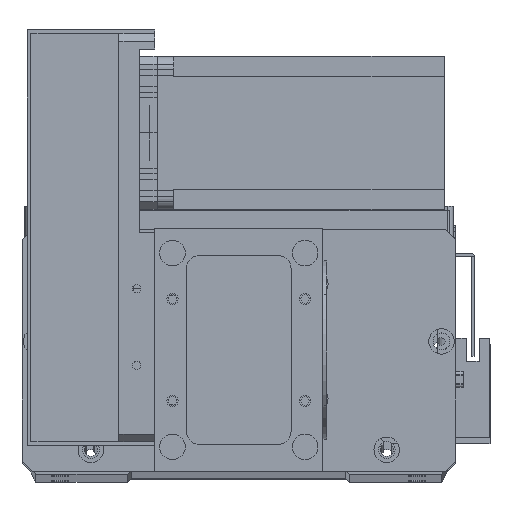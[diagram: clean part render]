
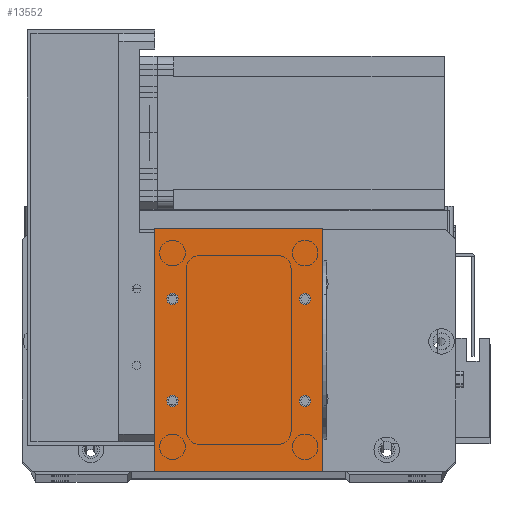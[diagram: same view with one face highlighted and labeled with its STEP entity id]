
A CAD part, top view. The second image highlights one B-rep face of the part: STEP entity #13552.
In plain terms, the highlighted planar face has unit normal (0, 0, 1).
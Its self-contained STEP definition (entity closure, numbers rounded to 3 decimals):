
#53 = DIRECTION ( 'NONE',  ( 1., 0., 0. ) ) ;
#170 = FACE_BOUND ( 'NONE', #5069, .T. ) ;
#246 = CARTESIAN_POINT ( 'NONE',  ( 0., 0., 2. ) ) ;
#457 = AXIS2_PLACEMENT_3D ( 'NONE', #25941, #10708, #28516 ) ;
#862 = ORIENTED_EDGE ( 'NONE', *, *, #5240, .F. ) ;
#1727 = AXIS2_PLACEMENT_3D ( 'NONE', #5889, #23608, #8422 ) ;
#1731 = EDGE_CURVE ( 'NONE', #11243, #31616, #24726, .T. ) ;
#1826 = DIRECTION ( 'NONE',  ( 1., 0., 0. ) ) ;
#2227 = CARTESIAN_POINT ( 'NONE',  ( 9.25, 27.5, 2. ) ) ;
#2505 = VERTEX_POINT ( 'NONE', #25906 ) ;
#2884 = CARTESIAN_POINT ( 'NONE',  ( 0., 95., 2. ) ) ;
#3035 = ORIENTED_EDGE ( 'NONE', *, *, #31755, .T. ) ;
#3715 = CIRCLE ( 'NONE', #4622, 2.25 ) ;
#4555 = DIRECTION ( 'NONE',  ( 0., 0., 1. ) ) ;
#4622 = AXIS2_PLACEMENT_3D ( 'NONE', #19721, #4555, #22293 ) ;
#4671 = CIRCLE ( 'NONE', #25091, 2.25 ) ;
#4686 = VERTEX_POINT ( 'NONE', #2884 ) ;
#4816 = EDGE_CURVE ( 'NONE', #13990, #27916, #18143, .T. ) ;
#4982 = DIRECTION ( 'NONE',  ( 0., 0., 1. ) ) ;
#5069 = EDGE_LOOP ( 'NONE', ( #19073, #25594 ) ) ;
#5163 = VERTEX_POINT ( 'NONE', #9734 ) ;
#5240 = EDGE_CURVE ( 'NONE', #2505, #10138, #19060, .T. ) ;
#5391 = EDGE_CURVE ( 'NONE', #20242, #13130, #7575, .T. ) ;
#5889 = CARTESIAN_POINT ( 'NONE',  ( 59., 67.5, 2. ) ) ;
#6149 = FACE_BOUND ( 'NONE', #7068, .T. ) ;
#6351 = AXIS2_PLACEMENT_3D ( 'NONE', #9896, #27683, #12406 ) ;
#6525 = VERTEX_POINT ( 'NONE', #2227 ) ;
#6750 = LINE ( 'NONE', #246, #19414 ) ;
#6939 = FACE_OUTER_BOUND ( 'NONE', #25197, .T. ) ;
#7068 = EDGE_LOOP ( 'NONE', ( #9404, #27607 ) ) ;
#7426 = AXIS2_PLACEMENT_3D ( 'NONE', #30537, #15216, #53 ) ;
#7575 = CIRCLE ( 'NONE', #457, 2.25 ) ;
#7764 = LINE ( 'NONE', #19694, #13658 ) ;
#7934 = ORIENTED_EDGE ( 'NONE', *, *, #5391, .F. ) ;
#8366 = CIRCLE ( 'NONE', #7426, 2.25 ) ;
#8422 = DIRECTION ( 'NONE',  ( 1., 0., 0. ) ) ;
#8434 = EDGE_CURVE ( 'NONE', #10138, #2505, #18481, .T. ) ;
#9404 = ORIENTED_EDGE ( 'NONE', *, *, #28852, .F. ) ;
#9734 = CARTESIAN_POINT ( 'NONE',  ( 66., 95., 2. ) ) ;
#9896 = CARTESIAN_POINT ( 'NONE',  ( 59., 27.5, 2. ) ) ;
#10138 = VERTEX_POINT ( 'NONE', #10713 ) ;
#10708 = DIRECTION ( 'NONE',  ( 0., 0., 1. ) ) ;
#10713 = CARTESIAN_POINT ( 'NONE',  ( 4.75, 67.5, 2. ) ) ;
#10739 = ORIENTED_EDGE ( 'NONE', *, *, #27124, .T. ) ;
#11243 = VERTEX_POINT ( 'NONE', #19565 ) ;
#11264 = CARTESIAN_POINT ( 'NONE',  ( 66., 0., 2. ) ) ;
#11785 = PLANE ( 'NONE',  #18829 ) ;
#12406 = DIRECTION ( 'NONE',  ( 1., 0., 0. ) ) ;
#12840 = FACE_BOUND ( 'NONE', #24941, .T. ) ;
#13005 = EDGE_CURVE ( 'NONE', #5163, #4686, #7764, .T. ) ;
#13130 = VERTEX_POINT ( 'NONE', #22681 ) ;
#13433 = CARTESIAN_POINT ( 'NONE',  ( 7., 67.5, 2. ) ) ;
#13552 = ADVANCED_FACE ( 'NONE', ( #12840, #170, #26410, #6149, #6939 ), #11785, .F. ) ;
#13658 = VECTOR ( 'NONE', #32446, 1000. ) ;
#13675 = EDGE_CURVE ( 'NONE', #13130, #20242, #22398, .T. ) ;
#13990 = VERTEX_POINT ( 'NONE', #19983 ) ;
#14301 = DIRECTION ( 'NONE',  ( -1., 0., 0. ) ) ;
#14957 = VERTEX_POINT ( 'NONE', #26625 ) ;
#15216 = DIRECTION ( 'NONE',  ( 0., 0., 1. ) ) ;
#15472 = CARTESIAN_POINT ( 'NONE',  ( 61.25, 27.5, 2. ) ) ;
#15988 = DIRECTION ( 'NONE',  ( 1., 0., 0. ) ) ;
#16359 = AXIS2_PLACEMENT_3D ( 'NONE', #20145, #4982, #22694 ) ;
#16694 = DIRECTION ( 'NONE',  ( 0., 1., 0. ) ) ;
#16796 = CARTESIAN_POINT ( 'NONE',  ( 66., 0., 2. ) ) ;
#16992 = DIRECTION ( 'NONE',  ( 0., 0., 1. ) ) ;
#17149 = VECTOR ( 'NONE', #32763, 1000. ) ;
#17569 = LINE ( 'NONE', #16796, #30378 ) ;
#17986 = EDGE_LOOP ( 'NONE', ( #7934, #30005 ) ) ;
#18143 = CIRCLE ( 'NONE', #1727, 2.25 ) ;
#18481 = CIRCLE ( 'NONE', #20704, 2.25 ) ;
#18569 = ORIENTED_EDGE ( 'NONE', *, *, #8434, .F. ) ;
#18829 = AXIS2_PLACEMENT_3D ( 'NONE', #32084, #29599, #14301 ) ;
#19060 = CIRCLE ( 'NONE', #16359, 2.25 ) ;
#19073 = ORIENTED_EDGE ( 'NONE', *, *, #19997, .F. ) ;
#19414 = VECTOR ( 'NONE', #20535, 1000. ) ;
#19565 = CARTESIAN_POINT ( 'NONE',  ( 0., 0., 2. ) ) ;
#19694 = CARTESIAN_POINT ( 'NONE',  ( 0., 95., 2. ) ) ;
#19721 = CARTESIAN_POINT ( 'NONE',  ( 59., 67.5, 2. ) ) ;
#19983 = CARTESIAN_POINT ( 'NONE',  ( 56.75, 67.5, 2. ) ) ;
#19997 = EDGE_CURVE ( 'NONE', #27916, #13990, #3715, .T. ) ;
#20145 = CARTESIAN_POINT ( 'NONE',  ( 7., 67.5, 2. ) ) ;
#20242 = VERTEX_POINT ( 'NONE', #15472 ) ;
#20535 = DIRECTION ( 'NONE',  ( 0., -1., 0. ) ) ;
#20573 = ORIENTED_EDGE ( 'NONE', *, *, #13005, .T. ) ;
#20704 = AXIS2_PLACEMENT_3D ( 'NONE', #13433, #31317, #15988 ) ;
#22293 = DIRECTION ( 'NONE',  ( 1., 0., 0. ) ) ;
#22398 = CIRCLE ( 'NONE', #6351, 2.25 ) ;
#22568 = EDGE_CURVE ( 'NONE', #14957, #6525, #8366, .T. ) ;
#22681 = CARTESIAN_POINT ( 'NONE',  ( 56.75, 27.5, 2. ) ) ;
#22694 = DIRECTION ( 'NONE',  ( 1., 0., 0. ) ) ;
#23608 = DIRECTION ( 'NONE',  ( 0., 0., 1. ) ) ;
#24726 = LINE ( 'NONE', #27617, #17149 ) ;
#24941 = EDGE_LOOP ( 'NONE', ( #862, #18569 ) ) ;
#25091 = AXIS2_PLACEMENT_3D ( 'NONE', #32319, #16992, #1826 ) ;
#25197 = EDGE_LOOP ( 'NONE', ( #10739, #26535, #3035, #20573 ) ) ;
#25594 = ORIENTED_EDGE ( 'NONE', *, *, #4816, .F. ) ;
#25906 = CARTESIAN_POINT ( 'NONE',  ( 9.25, 67.5, 2. ) ) ;
#25941 = CARTESIAN_POINT ( 'NONE',  ( 59., 27.5, 2. ) ) ;
#26410 = FACE_BOUND ( 'NONE', #17986, .T. ) ;
#26535 = ORIENTED_EDGE ( 'NONE', *, *, #1731, .T. ) ;
#26625 = CARTESIAN_POINT ( 'NONE',  ( 4.75, 27.5, 2. ) ) ;
#27124 = EDGE_CURVE ( 'NONE', #4686, #11243, #6750, .T. ) ;
#27607 = ORIENTED_EDGE ( 'NONE', *, *, #22568, .F. ) ;
#27617 = CARTESIAN_POINT ( 'NONE',  ( 0., 0., 2. ) ) ;
#27683 = DIRECTION ( 'NONE',  ( 0., 0., 1. ) ) ;
#27916 = VERTEX_POINT ( 'NONE', #30359 ) ;
#28516 = DIRECTION ( 'NONE',  ( 1., 0., 0. ) ) ;
#28852 = EDGE_CURVE ( 'NONE', #6525, #14957, #4671, .T. ) ;
#29599 = DIRECTION ( 'NONE',  ( 0., 0., -1. ) ) ;
#30005 = ORIENTED_EDGE ( 'NONE', *, *, #13675, .F. ) ;
#30359 = CARTESIAN_POINT ( 'NONE',  ( 61.25, 67.5, 2. ) ) ;
#30378 = VECTOR ( 'NONE', #16694, 1000. ) ;
#30537 = CARTESIAN_POINT ( 'NONE',  ( 7., 27.5, 2. ) ) ;
#31317 = DIRECTION ( 'NONE',  ( 0., 0., 1. ) ) ;
#31616 = VERTEX_POINT ( 'NONE', #11264 ) ;
#31755 = EDGE_CURVE ( 'NONE', #31616, #5163, #17569, .T. ) ;
#32084 = CARTESIAN_POINT ( 'NONE',  ( 0., 0., 2. ) ) ;
#32319 = CARTESIAN_POINT ( 'NONE',  ( 7., 27.5, 2. ) ) ;
#32446 = DIRECTION ( 'NONE',  ( -1., 0., 0. ) ) ;
#32763 = DIRECTION ( 'NONE',  ( 1., 0., 0. ) ) ;
